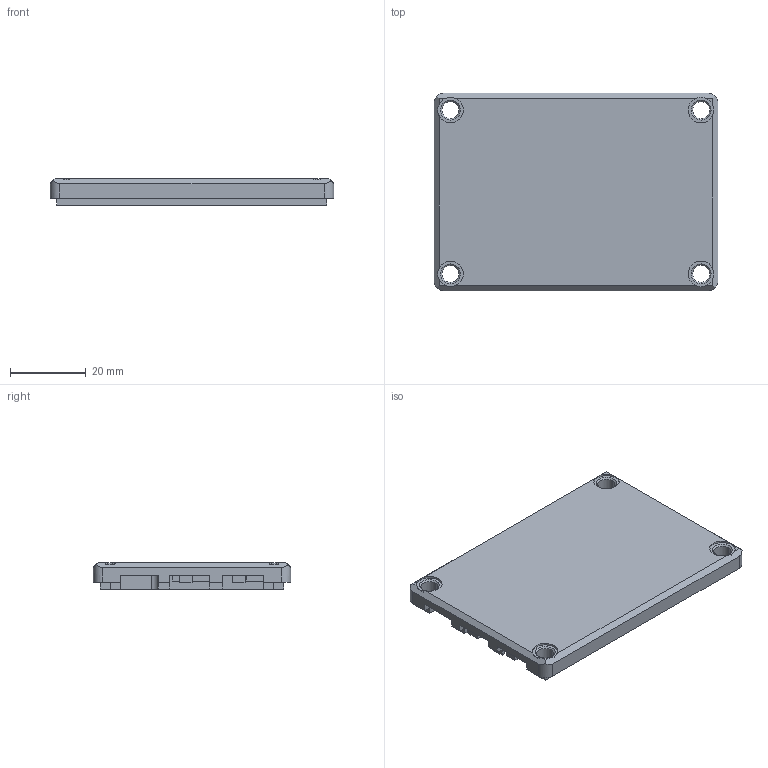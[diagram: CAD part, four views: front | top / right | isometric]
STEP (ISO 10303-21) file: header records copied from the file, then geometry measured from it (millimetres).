
FILE_DESCRIPTION(('CoCreate Modeling STEP Export'),'2;1');
FILE_NAME('142387-01_07-11-2016.stp','2016-07-11T10:37:26',(''),(''),'CoCreate Modeling STEP processor for AP214 (Solid Model)','CoCreate Modeling 17.0B 09-Oct-2010 (C) Parametric Technology GmbH','');
FILE_SCHEMA(('AUTOMOTIVE_DESIGN { 1 0 10303 214 1 1 1 1 }'));
Length unit declared in the file: millimetre
Products named in the file (1): thermal-insertUSRP-B200mini
Bounding box: 74.71 x 51.99 x 6.99 mm (x, y, z)
Volume: 14552 mm3; surface area: 10979.8 mm2
Topology: 1 solids, 1 shells, 158 faces, 438 edges, 289 vertices
Faces by surface type: plane 107, cylinder 43, cone 8
Entity records: 4934 total; most frequent: ORIENTED_EDGE 876, CARTESIAN_POINT 848, DIRECTION 790, EDGE_CURVE 438, VECTOR 316, LINE 316, VERTEX_POINT 289, AXIS2_PLACEMENT_3D 237
